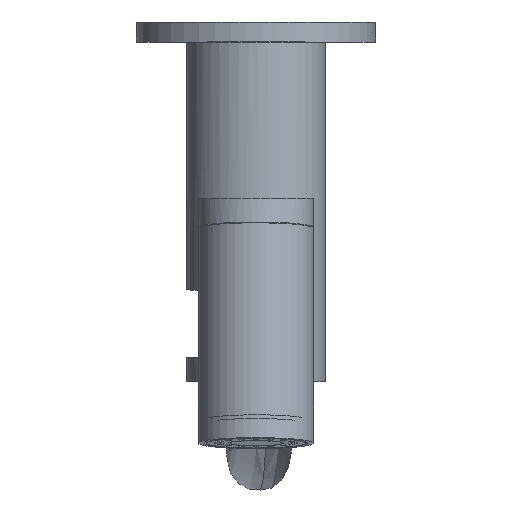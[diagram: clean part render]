
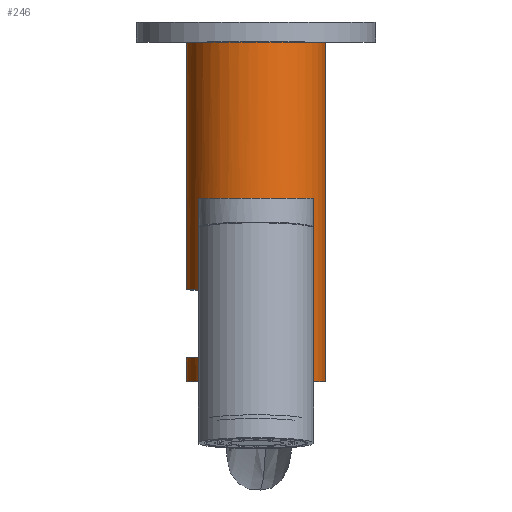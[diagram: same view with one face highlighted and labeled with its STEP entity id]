
A CAD part, top view. The second image highlights one B-rep face of the part: STEP entity #246.
In plain terms, the highlighted cylindrical face has radius 17.5 mm (diameter 35 mm), a partial arc.
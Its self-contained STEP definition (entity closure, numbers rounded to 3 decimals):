
#246=ADVANCED_FACE('',(#391),#2298,.T.);
#391=FACE_OUTER_BOUND('',#580,.T.);
#580=EDGE_LOOP('',(#1229,#1230,#1231,#1232,#1233,#1234,#1235,#1236,#1237));
#1229=ORIENTED_EDGE('',*,*,#1630,.T.);
#1230=ORIENTED_EDGE('',*,*,#1635,.T.);
#1231=ORIENTED_EDGE('',*,*,#1619,.T.);
#1232=ORIENTED_EDGE('',*,*,#1617,.T.);
#1233=ORIENTED_EDGE('',*,*,#1615,.T.);
#1234=ORIENTED_EDGE('',*,*,#1631,.T.);
#1235=ORIENTED_EDGE('',*,*,#1614,.F.);
#1236=ORIENTED_EDGE('',*,*,#1613,.F.);
#1237=ORIENTED_EDGE('',*,*,#1612,.T.);
#1612=EDGE_CURVE('',#2208,#2220,#1972,.T.);
#1613=EDGE_CURVE('',#2208,#2209,#1973,.T.);
#1614=EDGE_CURVE('',#2209,#2223,#1974,.T.);
#1615=EDGE_CURVE('',#2210,#2222,#1975,.T.);
#1617=EDGE_CURVE('',#2214,#2210,#1817,.T.);
#1619=EDGE_CURVE('',#2213,#2214,#1819,.T.);
#1630=EDGE_CURVE('',#2220,#2221,#1984,.T.);
#1631=EDGE_CURVE('',#2222,#2223,#1985,.T.);
#1635=EDGE_CURVE('',#2221,#2213,#1989,.T.);
#1817=B_SPLINE_CURVE_WITH_KNOTS('',3,(#11683,#11684,#11685,#11686,#11687,
#11688,#11689,#11690,#11691,#11692,#11693,#11694,#11695,#11696,#11697,#11698,
#11699,#11700,#11701,#11702,#11703,#11704,#11705,#11706,#11707),
 .UNSPECIFIED.,.F.,.F.,(4,2,2,2,2,2,2,2,3,2,2,4),(0.,2.24,4.473,
6.696,8.918,11.143,13.371,15.605,
17.841,21.881,23.887,25.614),
 .UNSPECIFIED.);
#1819=B_SPLINE_CURVE_WITH_KNOTS('',3,(#11733,#11734,#11735,#11736,#11737,
#11738,#11739,#11740,#11741,#11742,#11743,#11744,#11745,#11746,#11747,#11748,
#11749,#11750,#11751,#11752,#11753,#11754,#11755),.UNSPECIFIED.,.F.,.F.,
(4,2,2,3,2,2,2,2,2,2,4),(0.277,2.004,4.009,
8.05,10.346,12.529,14.715,16.991,
21.433,23.612,25.911),.UNSPECIFIED.);
#1972=(
BOUNDED_CURVE()
B_SPLINE_CURVE(2,(#11665,#11666,#11667,#11668,#11669),.UNSPECIFIED.,.F.,
 .F.)
B_SPLINE_CURVE_WITH_KNOTS((3,2,3),(0.,27.489,54.978),
 .UNSPECIFIED.)
CURVE()
GEOMETRIC_REPRESENTATION_ITEM()
RATIONAL_B_SPLINE_CURVE((1.,0.707,1.,0.707,1.))
REPRESENTATION_ITEM('')
);
#1973=(
BOUNDED_CURVE()
B_SPLINE_CURVE(1,(#11670,#11671),.UNSPECIFIED.,.F.,.F.)
B_SPLINE_CURVE_WITH_KNOTS((2,2),(0.,85.),.UNSPECIFIED.)
CURVE()
GEOMETRIC_REPRESENTATION_ITEM()
RATIONAL_B_SPLINE_CURVE((1.,1.))
REPRESENTATION_ITEM('')
);
#1974=(
BOUNDED_CURVE()
B_SPLINE_CURVE(2,(#11672,#11673,#11674,#11675,#11676),.UNSPECIFIED.,.F.,
 .F.)
B_SPLINE_CURVE_WITH_KNOTS((3,2,3),(0.,27.489,54.978),
 .UNSPECIFIED.)
CURVE()
GEOMETRIC_REPRESENTATION_ITEM()
RATIONAL_B_SPLINE_CURVE((1.,0.707,1.,0.707,1.))
REPRESENTATION_ITEM('')
);
#1975=(
BOUNDED_CURVE()
B_SPLINE_CURVE(2,(#11677,#11678,#11679),.UNSPECIFIED.,.F.,.F.)
B_SPLINE_CURVE_WITH_KNOTS((3,3),(34.938,54.978),
 .UNSPECIFIED.)
CURVE()
GEOMETRIC_REPRESENTATION_ITEM()
RATIONAL_B_SPLINE_CURVE((1.,0.836,1.))
REPRESENTATION_ITEM('')
);
#1984=(
BOUNDED_CURVE()
B_SPLINE_CURVE(1,(#11843,#11844),.UNSPECIFIED.,.F.,.F.)
B_SPLINE_CURVE_WITH_KNOTS((2,2),(0.,62.),.UNSPECIFIED.)
CURVE()
GEOMETRIC_REPRESENTATION_ITEM()
RATIONAL_B_SPLINE_CURVE((1.,1.))
REPRESENTATION_ITEM('')
);
#1985=(
BOUNDED_CURVE()
B_SPLINE_CURVE(1,(#11845,#11846),.UNSPECIFIED.,.F.,.F.)
B_SPLINE_CURVE_WITH_KNOTS((2,2),(79.,85.),.UNSPECIFIED.)
CURVE()
GEOMETRIC_REPRESENTATION_ITEM()
RATIONAL_B_SPLINE_CURVE((1.,1.))
REPRESENTATION_ITEM('')
);
#1989=(
BOUNDED_CURVE()
B_SPLINE_CURVE(2,(#11860,#11861,#11862),.UNSPECIFIED.,.F.,.F.)
B_SPLINE_CURVE_WITH_KNOTS((3,3),(-54.978,-34.938),
 .UNSPECIFIED.)
CURVE()
GEOMETRIC_REPRESENTATION_ITEM()
RATIONAL_B_SPLINE_CURVE((1.,0.836,1.))
REPRESENTATION_ITEM('')
);
#2208=VERTEX_POINT('',#9564);
#2209=VERTEX_POINT('',#9565);
#2210=VERTEX_POINT('',#9566);
#2213=VERTEX_POINT('',#9569);
#2214=VERTEX_POINT('',#9570);
#2220=VERTEX_POINT('',#9576);
#2221=VERTEX_POINT('',#9577);
#2222=VERTEX_POINT('',#9578);
#2223=VERTEX_POINT('',#9579);
#2298=CYLINDRICAL_SURFACE('',#2519,17.5);
#2519=AXIS2_PLACEMENT_3D('',#9509,#2632,$);
#2632=DIRECTION('',(0.,-1.,0.));
#9509=CARTESIAN_POINT('',(0.,-47.5,0.));
#9564=CARTESIAN_POINT('',(17.5,-5.,0.));
#9565=CARTESIAN_POINT('',(17.5,-90.,0.));
#9566=CARTESIAN_POINT('',(-6.982,-84.,16.047));
#9569=CARTESIAN_POINT('',(-6.982,-67.,16.047));
#9570=CARTESIAN_POINT('',(11.,-75.5,13.611));
#9576=CARTESIAN_POINT('',(-17.5,-5.,0.));
#9577=CARTESIAN_POINT('',(-17.5,-67.,0.));
#9578=CARTESIAN_POINT('',(-17.5,-84.,0.));
#9579=CARTESIAN_POINT('',(-17.5,-90.,0.));
#11665=CARTESIAN_POINT('',(17.5,-5.,0.));
#11666=CARTESIAN_POINT('',(17.5,-5.,17.5));
#11667=CARTESIAN_POINT('',(0.,-5.,17.5));
#11668=CARTESIAN_POINT('',(-17.5,-5.,17.5));
#11669=CARTESIAN_POINT('',(-17.5,-5.,0.));
#11670=CARTESIAN_POINT('',(17.5,-5.,0.));
#11671=CARTESIAN_POINT('',(17.5,-90.,0.));
#11672=CARTESIAN_POINT('',(17.5,-90.,0.));
#11673=CARTESIAN_POINT('',(17.5,-90.,17.5));
#11674=CARTESIAN_POINT('',(0.,-90.,17.5));
#11675=CARTESIAN_POINT('',(-17.5,-90.,17.5));
#11676=CARTESIAN_POINT('',(-17.5,-90.,0.));
#11677=CARTESIAN_POINT('',(-6.982,-84.,16.047));
#11678=CARTESIAN_POINT('',(-17.5,-84.,11.47));
#11679=CARTESIAN_POINT('',(-17.5,-84.,0.));
#11683=CARTESIAN_POINT('',(11.,-75.5,13.611));
#11684=CARTESIAN_POINT('',(11.,-76.247,13.611));
#11685=CARTESIAN_POINT('',(10.924,-76.984,13.673));
#11686=CARTESIAN_POINT('',(10.629,-78.426,13.904));
#11687=CARTESIAN_POINT('',(10.412,-79.12,14.07));
#11688=CARTESIAN_POINT('',(9.855,-80.438,14.465));
#11689=CARTESIAN_POINT('',(9.517,-81.06,14.693));
#11690=CARTESIAN_POINT('',(8.735,-82.222,15.171));
#11691=CARTESIAN_POINT('',(8.29,-82.764,15.422));
#11692=CARTESIAN_POINT('',(7.305,-83.754,15.912));
#11693=CARTESIAN_POINT('',(6.763,-84.204,16.153));
#11694=CARTESIAN_POINT('',(5.592,-84.999,16.594));
#11695=CARTESIAN_POINT('',(4.964,-85.343,16.795));
#11696=CARTESIAN_POINT('',(3.631,-85.909,17.133));
#11697=CARTESIAN_POINT('',(2.932,-86.128,17.268));
#11698=CARTESIAN_POINT('',(1.484,-86.424,17.452));
#11699=CARTESIAN_POINT('',(0.745,-86.5,17.5));
#11700=CARTESIAN_POINT('',(0.,-86.5,17.5));
#11701=CARTESIAN_POINT('',(-1.348,-86.5,17.5));
#11702=CARTESIAN_POINT('',(-2.663,-86.254,17.342));
#11703=CARTESIAN_POINT('',(-4.505,-85.557,16.922));
#11704=CARTESIAN_POINT('',(-5.088,-85.274,16.754));
#11705=CARTESIAN_POINT('',(-6.112,-84.662,16.406));
#11706=CARTESIAN_POINT('',(-6.561,-84.346,16.23));
#11707=CARTESIAN_POINT('',(-6.982,-84.,16.047));
#11733=CARTESIAN_POINT('',(-6.982,-67.,16.047));
#11734=CARTESIAN_POINT('',(-6.561,-66.654,16.23));
#11735=CARTESIAN_POINT('',(-6.112,-66.338,16.406));
#11736=CARTESIAN_POINT('',(-5.088,-65.726,16.754));
#11737=CARTESIAN_POINT('',(-4.505,-65.443,16.922));
#11738=CARTESIAN_POINT('',(-2.663,-64.746,17.342));
#11739=CARTESIAN_POINT('',(-1.348,-64.5,17.5));
#11740=CARTESIAN_POINT('',(0.,-64.5,17.5));
#11741=CARTESIAN_POINT('',(0.764,-64.5,17.5));
#11742=CARTESIAN_POINT('',(1.521,-64.579,17.45));
#11743=CARTESIAN_POINT('',(2.967,-64.883,17.261));
#11744=CARTESIAN_POINT('',(3.648,-65.098,17.129));
#11745=CARTESIAN_POINT('',(4.95,-65.651,16.799));
#11746=CARTESIAN_POINT('',(5.566,-65.987,16.603));
#11747=CARTESIAN_POINT('',(6.741,-66.777,16.162));
#11748=CARTESIAN_POINT('',(7.295,-67.236,15.917));
#11749=CARTESIAN_POINT('',(8.78,-68.729,15.178));
#11750=CARTESIAN_POINT('',(9.579,-69.907,14.662));
#11751=CARTESIAN_POINT('',(10.405,-71.863,14.075));
#11752=CARTESIAN_POINT('',(10.618,-72.539,13.912));
#11753=CARTESIAN_POINT('',(10.921,-73.979,13.676));
#11754=CARTESIAN_POINT('',(11.,-74.734,13.611));
#11755=CARTESIAN_POINT('',(11.,-75.5,13.611));
#11843=CARTESIAN_POINT('',(-17.5,-5.,0.));
#11844=CARTESIAN_POINT('',(-17.5,-67.,0.));
#11845=CARTESIAN_POINT('',(-17.5,-84.,0.));
#11846=CARTESIAN_POINT('',(-17.5,-90.,0.));
#11860=CARTESIAN_POINT('',(-17.5,-67.,0.));
#11861=CARTESIAN_POINT('',(-17.5,-67.,11.47));
#11862=CARTESIAN_POINT('',(-6.982,-67.,16.047));
